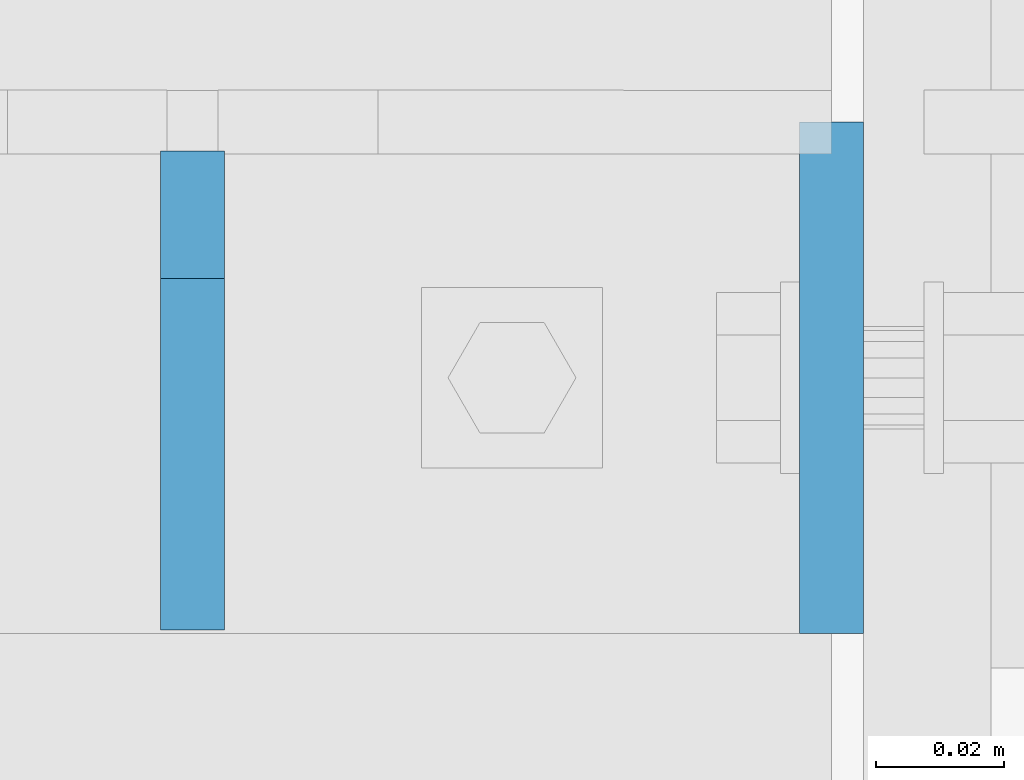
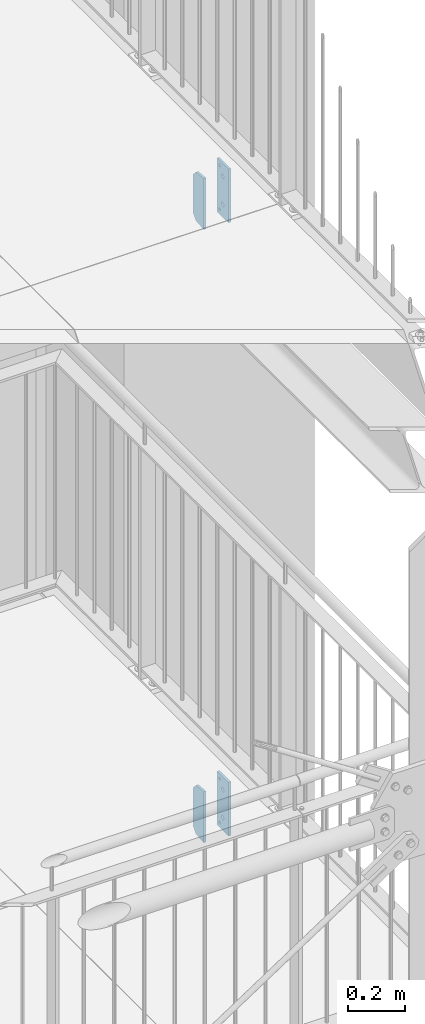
# One storey, part 205 of 825: 4 plates, 12 openings.
"""IFC2X3 building model written with IfcOpenShell, lengths in millimetres."""

from ifc_helpers import new_model, entity, si_unit, converted_unit, frame, frame_2d, origin, origin_with_axes, origin_2d_with_axis, place, context, project, spatial, polyline, circle, outline, extrude, material, layer, layer_set, element, save


model = new_model("IFC2X3")

# Units and contexts
model_context = context("Model", 3, precision=1e-09, world=origin_with_axes())
ifc_project = project(units=[si_unit("LENGTHUNIT", "METRE", prefix="MILLI"), si_unit("AREAUNIT", "SQUARE_METRE"), si_unit("VOLUMEUNIT", "CUBIC_METRE"), converted_unit("PLANEANGLEUNIT", "DEGREE", entity("IfcPlaneAngleMeasure", 0.01745329), si_unit("PLANEANGLEUNIT", "RADIAN"), dimensions=[0, 0, 0, 0, 0, 0, 0])], contexts=[model_context])

# Site, building, storey
site_placement = place(None, origin_with_axes())
site = spatial("IfcSite", under=ifc_project, at=site_placement, Name="Cnopf'sche Kinderklinik", CompositionType="ELEMENT")
building_placement = place(site_placement, origin_with_axes())
building = spatial("IfcBuilding", under=site, at=building_placement, Name="Struktur 1", CompositionType="ELEMENT")
storey_placement = place(building_placement, origin_with_axes())
storey = spatial("IfcBuildingStorey", under=building, at=storey_placement, Name="Default Storey", CompositionType="ELEMENT", Elevation=0.0)

# Plate, openings
ifc_material = material(Name="S235JR")
ifc_layer = layer(ifc_material, 10.0)
ifc_layer_set = layer_set([ifc_layer], Name="S235JR")
plate_1_placement = place(None, frame((8871.713402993, 6062.236971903, 13885.355265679), z_axis=(-1.0, 0.0, 0.0), x_axis=(0.0, 0.996815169, -0.079746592)))
plate_1 = element("IfcPlate", 1, at=plate_1_placement, inside=storey, material=ifc_layer_set, Name="Stiffener#1", ObjectType="Stiffener#1", context=model_context, shape_type="SweptSolid", body=[
    extrude(outline(polyline([(0.0, 0.0), (75.239625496, 0.0), (91.644322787, 205.05517107), (17.361672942, 217.017159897), (0.0, 0.0)])), origin_with_axes(), (0.0, 0.0, 1.0), 10.0),
])
opening_1_placement = place(plate_1_placement, frame((0.0, 0.0, -0.01), z_axis=(0.0, 0.0, 1.0), x_axis=(1.0, 0.0, 0.0)))
element("IfcOpeningElement", 2, at=opening_1_placement, cuts=plate_1, ObjectType="Opening", context=model_context, shape_type="SweptSolid", body=[
    extrude(outline(polyline([(91.644322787, 205.05517107), (71.898703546, 208.23487558), (90.049390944, 185.118867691), (91.644322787, 205.05517107)])), origin(), (0.0, 0.0, 1.0), 10.02),
])
opening_2_placement = place(plate_1_placement, frame((0.0, 0.0, -0.01), z_axis=(0.0, 0.0, 1.0), x_axis=(1.0, 0.0, 0.0)))
element("IfcOpeningElement", 3, at=opening_2_placement, cuts=plate_1, ObjectType="Opening", context=model_context, shape_type="SweptSolid", body=[
    extrude(outline(polyline([(75.239625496, 0.0), (76.83455734, 19.936303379), (55.239625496, 0.0), (75.239625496, 0.0)])), origin(), (0.0, 0.0, 1.0), 10.02),
])

plate_2_placement = place(None, frame((8971.713402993, 6141.736971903, 13891.5000001), z_axis=(-1.0, 0.0, 0.0), x_axis=(0.0, 0.0, -1.0)))
plate_2 = element("IfcPlate", 4, at=plate_2_placement, inside=storey, material=ifc_layer_set, Name="Endplate", ObjectType="Endplate", context=model_context, shape_type="SweptSolid", body=[
    extrude(outline(polyline([(0.0, 0.0), (230.0, 0.0), (230.0, 80.0), (0.0, 80.0), (0.0, 0.0)])), origin_with_axes(), (0.0, 0.0, 1.0), 10.0),
])
opening_3_placement = place(plate_2_placement, frame((209.0, 17.5, -0.5), z_axis=(0.0, 0.0, 1.0), x_axis=(1.0, 0.0, 0.0)))
element("IfcOpeningElement", 5, at=opening_3_placement, cuts=plate_2, ObjectType="Opening", context=model_context, shape_type="SweptSolid", body=[
    extrude(circle(Radius=6.001, at=origin_2d_with_axis()), origin(), (0.0, 0.0, 1.0), 11.0),
])
opening_4_placement = place(plate_2_placement, frame((21.0, 17.5, -0.5), z_axis=(0.0, 0.0, 1.0), x_axis=(1.0, 0.0, 0.0)))
element("IfcOpeningElement", 6, at=opening_4_placement, cuts=plate_2, ObjectType="Opening", context=model_context, shape_type="SweptSolid", body=[
    extrude(circle(Radius=6.001, at=origin_2d_with_axis()), origin(), (0.0, 0.0, 1.0), 11.0),
])
opening_5_placement = place(plate_2_placement, frame((64.001, 40.0, -0.5), z_axis=(0.0, 0.0, -1.0), x_axis=(-1.0, 0.0, 0.0)))
element("IfcOpeningElement", 7, at=opening_5_placement, cuts=plate_2, ObjectType="Opening", context=model_context, shape_type="SweptSolid", body=[
    extrude(circle(Radius=9.001, at=frame_2d((9.001, 0.0), x_axis=(1.0, 0.0))), origin(), (0.0, 0.0, -1.0), 11.0),
])
opening_6_placement = place(plate_2_placement, frame((184.001, 40.0, -0.5), z_axis=(0.0, 0.0, -1.0), x_axis=(-1.0, 0.0, 0.0)))
element("IfcOpeningElement", 8, at=opening_6_placement, cuts=plate_2, ObjectType="Opening", context=model_context, shape_type="SweptSolid", body=[
    extrude(circle(Radius=9.001, at=frame_2d((9.001, 0.0), x_axis=(1.0, 0.0))), origin(), (0.0, 0.0, -1.0), 11.0),
])

plate_3_placement = place(None, frame((8871.713402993, 6062.236971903, 16512.855265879), z_axis=(-1.0, 0.0, 0.0), x_axis=(0.0, 0.996815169, -0.079746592)))
plate_3 = element("IfcPlate", 9, at=plate_3_placement, inside=storey, material=ifc_layer_set, Name="Stiffener#1", ObjectType="Stiffener#1", context=model_context, shape_type="SweptSolid", body=[
    extrude(outline(polyline([(0.0, 0.0), (75.239625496, 0.0), (91.644322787, 205.05517107), (17.361672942, 217.017159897), (0.0, 0.0)])), origin_with_axes(), (0.0, 0.0, 1.0), 10.0),
])
opening_7_placement = place(plate_3_placement, frame((0.0, 0.0, -0.01), z_axis=(0.0, 0.0, 1.0), x_axis=(1.0, 0.0, 0.0)))
element("IfcOpeningElement", 10, at=opening_7_placement, cuts=plate_3, ObjectType="Opening", context=model_context, shape_type="SweptSolid", body=[
    extrude(outline(polyline([(91.644322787, 205.05517107), (71.898703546, 208.23487558), (90.049390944, 185.118867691), (91.644322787, 205.05517107)])), origin(), (0.0, 0.0, 1.0), 10.02),
])
opening_8_placement = place(plate_3_placement, frame((0.0, 0.0, -0.01), z_axis=(0.0, 0.0, 1.0), x_axis=(1.0, 0.0, 0.0)))
element("IfcOpeningElement", 11, at=opening_8_placement, cuts=plate_3, ObjectType="Opening", context=model_context, shape_type="SweptSolid", body=[
    extrude(outline(polyline([(75.239625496, 0.0), (76.83455734, 19.936303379), (55.239625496, 0.0), (75.239625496, 0.0)])), origin(), (0.0, 0.0, 1.0), 10.02),
])

plate_4_placement = place(None, frame((8971.713402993, 6141.736971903, 16519.0000003), z_axis=(-1.0, 0.0, 0.0), x_axis=(0.0, 0.0, -1.0)))
plate_4 = element("IfcPlate", 12, at=plate_4_placement, inside=storey, material=ifc_layer_set, Name="Endplate", ObjectType="Endplate", context=model_context, shape_type="SweptSolid", body=[
    extrude(outline(polyline([(0.0, 0.0), (230.0, 0.0), (230.0, 80.0), (0.0, 80.0), (0.0, 0.0)])), origin_with_axes(), (0.0, 0.0, 1.0), 10.0),
])
opening_9_placement = place(plate_4_placement, frame((209.0, 17.5, -0.5), z_axis=(0.0, 0.0, 1.0), x_axis=(1.0, 0.0, 0.0)))
element("IfcOpeningElement", 13, at=opening_9_placement, cuts=plate_4, ObjectType="Opening", context=model_context, shape_type="SweptSolid", body=[
    extrude(circle(Radius=6.001, at=origin_2d_with_axis()), origin(), (0.0, 0.0, 1.0), 11.0),
])
opening_10_placement = place(plate_4_placement, frame((21.0, 17.5, -0.5), z_axis=(0.0, 0.0, 1.0), x_axis=(1.0, 0.0, 0.0)))
element("IfcOpeningElement", 14, at=opening_10_placement, cuts=plate_4, ObjectType="Opening", context=model_context, shape_type="SweptSolid", body=[
    extrude(circle(Radius=6.001, at=origin_2d_with_axis()), origin(), (0.0, 0.0, 1.0), 11.0),
])
opening_11_placement = place(plate_4_placement, frame((64.001, 40.0, -0.5), z_axis=(0.0, 0.0, -1.0), x_axis=(-1.0, 0.0, 0.0)))
element("IfcOpeningElement", 15, at=opening_11_placement, cuts=plate_4, ObjectType="Opening", context=model_context, shape_type="SweptSolid", body=[
    extrude(circle(Radius=9.001, at=frame_2d((9.001, 0.0), x_axis=(1.0, 0.0))), origin(), (0.0, 0.0, -1.0), 11.0),
])
opening_12_placement = place(plate_4_placement, frame((184.001, 40.0, -0.5), z_axis=(0.0, 0.0, -1.0), x_axis=(-1.0, 0.0, 0.0)))
element("IfcOpeningElement", 16, at=opening_12_placement, cuts=plate_4, ObjectType="Opening", context=model_context, shape_type="SweptSolid", body=[
    extrude(circle(Radius=9.001, at=frame_2d((9.001, 0.0), x_axis=(1.0, 0.0))), origin(), (0.0, 0.0, -1.0), 11.0),
])

save(model, "model.ifc")
